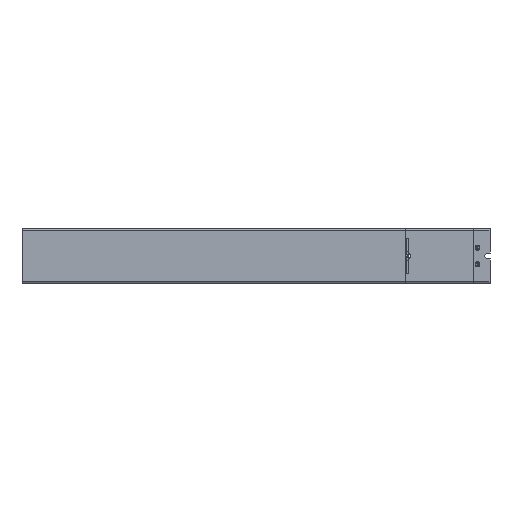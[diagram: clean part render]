
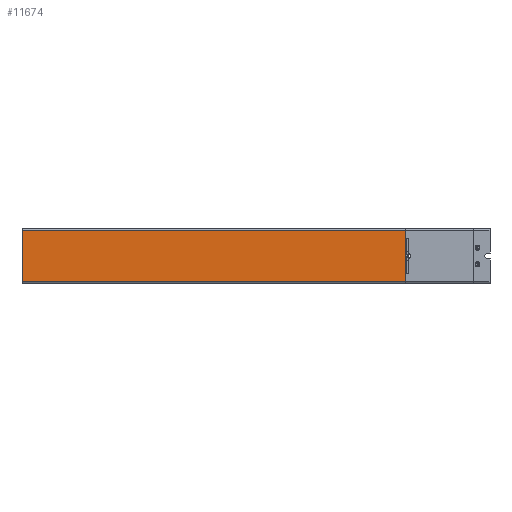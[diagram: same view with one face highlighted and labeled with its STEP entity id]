
A CAD part, left-side view. The second image highlights one B-rep face of the part: STEP entity #11674.
In plain terms, the highlighted planar face has unit normal (-1, 0, 0) as drawn and (1, 0, 0) by its records, which use the part's own axes.
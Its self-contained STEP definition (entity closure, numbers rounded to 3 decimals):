
#83 = FACE_OUTER_BOUND ( 'NONE', #1262, .T. ) ;
#701 = CARTESIAN_POINT ( 'NONE',  ( 25., 705., 47. ) ) ;
#1262 = EDGE_LOOP ( 'NONE', ( #10593, #21183, #16732, #20763 ) ) ;
#1538 = LINE ( 'NONE', #18373, #18299 ) ;
#1781 = VERTEX_POINT ( 'NONE', #18866 ) ;
#1994 = VECTOR ( 'NONE', #11521, 1000. ) ;
#2269 = LINE ( 'NONE', #21748, #1994 ) ;
#3155 = LINE ( 'NONE', #16237, #7215 ) ;
#4505 = EDGE_CURVE ( 'NONE', #15091, #13382, #3155, .T. ) ;
#4611 = DIRECTION ( 'NONE',  ( 0., -1., 0. ) ) ;
#7215 = VECTOR ( 'NONE', #21271, 1000. ) ;
#7784 = DIRECTION ( 'NONE',  ( 0., 0., 1. ) ) ;
#8022 = VECTOR ( 'NONE', #21734, 1000. ) ;
#9342 = EDGE_CURVE ( 'NONE', #16340, #1781, #1538, .T. ) ;
#9649 = PLANE ( 'NONE',  #18553 ) ;
#10593 = ORIENTED_EDGE ( 'NONE', *, *, #4505, .F. ) ;
#11320 = DIRECTION ( 'NONE',  ( -1., 0., 0. ) ) ;
#11521 = DIRECTION ( 'NONE',  ( 0., 0., -1. ) ) ;
#11674 = ADVANCED_FACE ( 'NONE', ( #83 ), #9649, .F. ) ;
#12610 = CARTESIAN_POINT ( 'NONE',  ( 25., 705., -47. ) ) ;
#13382 = VERTEX_POINT ( 'NONE', #13668 ) ;
#13668 = CARTESIAN_POINT ( 'NONE',  ( 25., 0., -47. ) ) ;
#15091 = VERTEX_POINT ( 'NONE', #12610 ) ;
#15804 = EDGE_CURVE ( 'NONE', #1781, #13382, #2269, .T. ) ;
#16237 = CARTESIAN_POINT ( 'NONE',  ( 25., 860., -47. ) ) ;
#16340 = VERTEX_POINT ( 'NONE', #701 ) ;
#16701 = LINE ( 'NONE', #21207, #8022 ) ;
#16732 = ORIENTED_EDGE ( 'NONE', *, *, #9342, .T. ) ;
#18299 = VECTOR ( 'NONE', #4611, 1000. ) ;
#18366 = CARTESIAN_POINT ( 'NONE',  ( 25., 860., 47. ) ) ;
#18373 = CARTESIAN_POINT ( 'NONE',  ( 25., 860., 47. ) ) ;
#18553 = AXIS2_PLACEMENT_3D ( 'NONE', #18366, #11320, #7784 ) ;
#18866 = CARTESIAN_POINT ( 'NONE',  ( 25., 0., 47. ) ) ;
#19415 = EDGE_CURVE ( 'NONE', #16340, #15091, #16701, .T. ) ;
#20763 = ORIENTED_EDGE ( 'NONE', *, *, #15804, .T. ) ;
#21183 = ORIENTED_EDGE ( 'NONE', *, *, #19415, .F. ) ;
#21207 = CARTESIAN_POINT ( 'NONE',  ( 25., 705., 86.735 ) ) ;
#21271 = DIRECTION ( 'NONE',  ( 0., -1., 0. ) ) ;
#21734 = DIRECTION ( 'NONE',  ( 0., 0., -1. ) ) ;
#21748 = CARTESIAN_POINT ( 'NONE',  ( 25., 0., 47. ) ) ;
